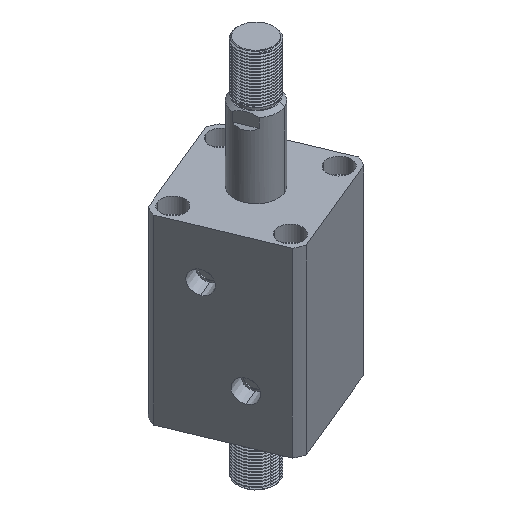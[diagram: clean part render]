
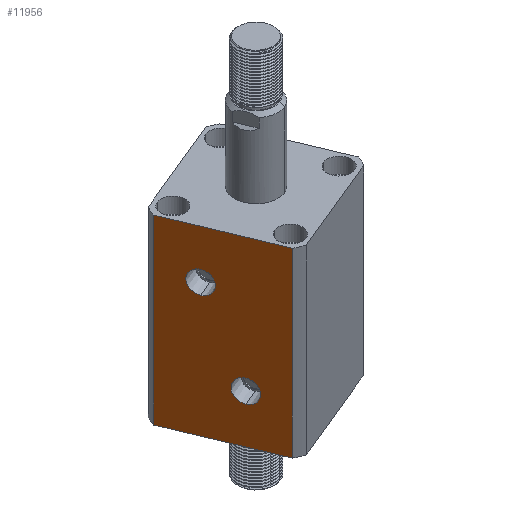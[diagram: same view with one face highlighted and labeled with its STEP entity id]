
A CAD part, isometric view. The second image highlights one B-rep face of the part: STEP entity #11956.
In plain terms, the highlighted planar face has unit normal (-0.924, -0.383, 0) as drawn and (0, 1, 0) by its records, which use the part's own axes.
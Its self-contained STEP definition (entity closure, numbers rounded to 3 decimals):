
#864 = CIRCLE ( 'NONE', #14118, 6.532 ) ;
#1670 = DIRECTION ( 'NONE',  ( 0., 1., 0. ) ) ;
#2177 = VERTEX_POINT ( 'NONE', #4743 ) ;
#2812 = DIRECTION ( 'NONE',  ( 0., 1., 0. ) ) ;
#3105 = EDGE_LOOP ( 'NONE', ( #12405, #13490, #13933, #11723 ) ) ;
#3128 = AXIS2_PLACEMENT_3D ( 'NONE', #9758, #1670, #11160 ) ;
#3264 = DIRECTION ( 'NONE',  ( 0., 0., -1. ) ) ;
#3465 = FACE_OUTER_BOUND ( 'NONE', #3105, .T. ) ;
#3590 = EDGE_CURVE ( 'NONE', #5566, #17333, #10128, .T. ) ;
#3653 = CARTESIAN_POINT ( 'NONE',  ( -10., 35., 21.468 ) ) ;
#3695 = EDGE_LOOP ( 'NONE', ( #11568, #9824 ) ) ;
#4011 = DIRECTION ( 'NONE',  ( 0., -1., 0. ) ) ;
#4535 = EDGE_CURVE ( 'NONE', #10226, #13076, #16280, .T. ) ;
#4743 = CARTESIAN_POINT ( 'NONE',  ( 30.615, 35., 105. ) ) ;
#4779 = AXIS2_PLACEMENT_3D ( 'NONE', #5914, #15455, #7282 ) ;
#4896 = EDGE_CURVE ( 'NONE', #2177, #14369, #16100, .T. ) ;
#5085 = CARTESIAN_POINT ( 'NONE',  ( -30.615, 35., 105. ) ) ;
#5231 = DIRECTION ( 'NONE',  ( 0., 1., 0. ) ) ;
#5431 = VECTOR ( 'NONE', #10499, 1000. ) ;
#5566 = VERTEX_POINT ( 'NONE', #16620 ) ;
#5595 = EDGE_CURVE ( 'NONE', #17333, #5566, #13550, .T. ) ;
#5707 = VERTEX_POINT ( 'NONE', #8705 ) ;
#5914 = CARTESIAN_POINT ( 'NONE',  ( -10., 35., 28. ) ) ;
#5948 = VERTEX_POINT ( 'NONE', #13412 ) ;
#6962 = CARTESIAN_POINT ( 'NONE',  ( -30.615, 35., 0. ) ) ;
#7035 = FACE_BOUND ( 'NONE', #13288, .T. ) ;
#7282 = DIRECTION ( 'NONE',  ( 0., 0., 1. ) ) ;
#7314 = DIRECTION ( 'NONE',  ( -1., 0., 0. ) ) ;
#7418 = LINE ( 'NONE', #8691, #15098 ) ;
#7708 = CIRCLE ( 'NONE', #3128, 6.532 ) ;
#8063 = DIRECTION ( 'NONE',  ( 0., 0., -1. ) ) ;
#8691 = CARTESIAN_POINT ( 'NONE',  ( -30.615, 35., -195. ) ) ;
#8705 = CARTESIAN_POINT ( 'NONE',  ( 10., 35., 70.468 ) ) ;
#8845 = VECTOR ( 'NONE', #7314, 1000. ) ;
#9056 = DIRECTION ( 'NONE',  ( 0., 0., 1. ) ) ;
#9743 = EDGE_CURVE ( 'NONE', #10226, #2177, #14542, .T. ) ;
#9758 = CARTESIAN_POINT ( 'NONE',  ( 10., 35., 77. ) ) ;
#9824 = ORIENTED_EDGE ( 'NONE', *, *, #17543, .F. ) ;
#10012 = AXIS2_PLACEMENT_3D ( 'NONE', #13375, #5231, #14741 ) ;
#10128 = CIRCLE ( 'NONE', #10012, 6.532 ) ;
#10226 = VERTEX_POINT ( 'NONE', #16603 ) ;
#10452 = EDGE_CURVE ( 'NONE', #5948, #5707, #7708, .T. ) ;
#10499 = DIRECTION ( 'NONE',  ( -1., 0., 0. ) ) ;
#10933 = VECTOR ( 'NONE', #9056, 1000. ) ;
#10940 = CARTESIAN_POINT ( 'NONE',  ( 10., 35., 77. ) ) ;
#11160 = DIRECTION ( 'NONE',  ( 0., 0., 1. ) ) ;
#11568 = ORIENTED_EDGE ( 'NONE', *, *, #10452, .F. ) ;
#11723 = ORIENTED_EDGE ( 'NONE', *, *, #4896, .F. ) ;
#11956 = ADVANCED_FACE ( 'NONE', ( #7035, #17468, #3465 ), #14868, .F. ) ;
#12306 = DIRECTION ( 'NONE',  ( 0., 0., 1. ) ) ;
#12405 = ORIENTED_EDGE ( 'NONE', *, *, #9743, .F. ) ;
#12692 = AXIS2_PLACEMENT_3D ( 'NONE', #16228, #4011, #8063 ) ;
#13044 = ORIENTED_EDGE ( 'NONE', *, *, #3590, .F. ) ;
#13076 = VERTEX_POINT ( 'NONE', #6962 ) ;
#13288 = EDGE_LOOP ( 'NONE', ( #13044, #14508 ) ) ;
#13375 = CARTESIAN_POINT ( 'NONE',  ( -10., 35., 28. ) ) ;
#13412 = CARTESIAN_POINT ( 'NONE',  ( 10., 35., 83.532 ) ) ;
#13490 = ORIENTED_EDGE ( 'NONE', *, *, #4535, .T. ) ;
#13550 = CIRCLE ( 'NONE', #4779, 6.532 ) ;
#13933 = ORIENTED_EDGE ( 'NONE', *, *, #16955, .F. ) ;
#14042 = CARTESIAN_POINT ( 'NONE',  ( -35., 35., 105. ) ) ;
#14118 = AXIS2_PLACEMENT_3D ( 'NONE', #10940, #2812, #12306 ) ;
#14369 = VERTEX_POINT ( 'NONE', #5085 ) ;
#14474 = CARTESIAN_POINT ( 'NONE',  ( -35., 35., 0. ) ) ;
#14508 = ORIENTED_EDGE ( 'NONE', *, *, #5595, .F. ) ;
#14542 = LINE ( 'NONE', #15801, #10933 ) ;
#14741 = DIRECTION ( 'NONE',  ( 0., 0., 1. ) ) ;
#14868 = PLANE ( 'NONE',  #12692 ) ;
#15098 = VECTOR ( 'NONE', #3264, 1000. ) ;
#15455 = DIRECTION ( 'NONE',  ( 0., 1., 0. ) ) ;
#15801 = CARTESIAN_POINT ( 'NONE',  ( 30.615, 35., -195. ) ) ;
#16100 = LINE ( 'NONE', #14042, #8845 ) ;
#16228 = CARTESIAN_POINT ( 'NONE',  ( -35., 35., 105. ) ) ;
#16280 = LINE ( 'NONE', #14474, #5431 ) ;
#16603 = CARTESIAN_POINT ( 'NONE',  ( 30.615, 35., 0. ) ) ;
#16620 = CARTESIAN_POINT ( 'NONE',  ( -10., 35., 34.532 ) ) ;
#16955 = EDGE_CURVE ( 'NONE', #14369, #13076, #7418, .T. ) ;
#17333 = VERTEX_POINT ( 'NONE', #3653 ) ;
#17468 = FACE_BOUND ( 'NONE', #3695, .T. ) ;
#17543 = EDGE_CURVE ( 'NONE', #5707, #5948, #864, .T. ) ;
